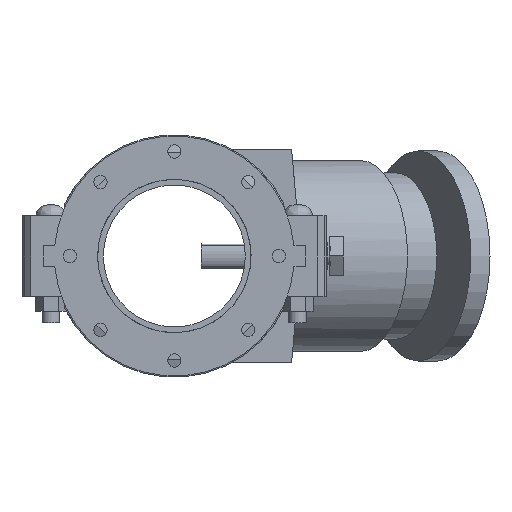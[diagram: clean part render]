
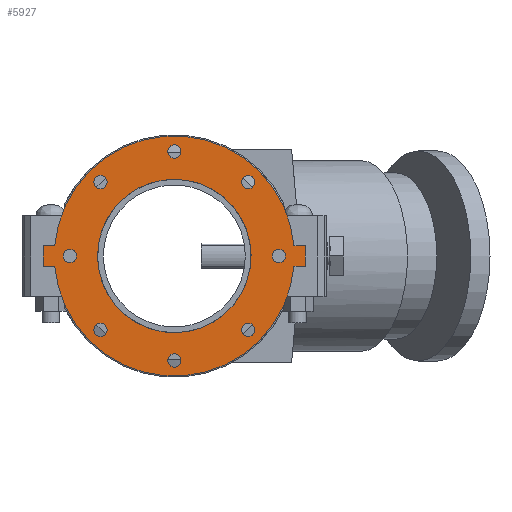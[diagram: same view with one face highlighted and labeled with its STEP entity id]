
A CAD part, front view. The second image highlights one B-rep face of the part: STEP entity #5927.
In plain terms, the highlighted planar face has unit normal (0, -1, 0) as drawn and (0, 0, 1) by its records, which use the part's own axes.
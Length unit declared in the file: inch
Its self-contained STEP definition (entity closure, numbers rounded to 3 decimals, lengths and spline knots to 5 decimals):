
#155=FACE_BOUND('',#786,.T.);
#156=FACE_BOUND('',#787,.T.);
#157=FACE_BOUND('',#788,.T.);
#158=FACE_BOUND('',#789,.T.);
#159=FACE_BOUND('',#790,.T.);
#160=FACE_BOUND('',#791,.T.);
#161=FACE_BOUND('',#792,.T.);
#162=FACE_BOUND('',#793,.T.);
#163=FACE_BOUND('',#794,.T.);
#236=PLANE('',#6491);
#446=FACE_OUTER_BOUND('',#785,.T.);
#785=EDGE_LOOP('',(#3885,#3886,#3887,#3888,#3889,#3890,#3891,#3892));
#786=EDGE_LOOP('',(#3893));
#787=EDGE_LOOP('',(#3894));
#788=EDGE_LOOP('',(#3895));
#789=EDGE_LOOP('',(#3896));
#790=EDGE_LOOP('',(#3897));
#791=EDGE_LOOP('',(#3898));
#792=EDGE_LOOP('',(#3899));
#793=EDGE_LOOP('',(#3900));
#794=EDGE_LOOP('',(#3901,#3902));
#1191=LINE('',#9108,#1627);
#1192=LINE('',#9111,#1628);
#1195=LINE('',#9116,#1631);
#1196=LINE('',#9119,#1632);
#1198=LINE('',#9122,#1634);
#1199=LINE('',#9124,#1635);
#1627=VECTOR('',#7256,0.3937);
#1628=VECTOR('',#7259,0.3937);
#1631=VECTOR('',#7264,0.3937);
#1632=VECTOR('',#7267,0.3937);
#1634=VECTOR('',#7271,0.3937);
#1635=VECTOR('',#7274,0.3937);
#2043=CIRCLE('',#6450,0.375);
#2045=CIRCLE('',#6453,0.375);
#2047=CIRCLE('',#6456,0.375);
#2049=CIRCLE('',#6459,0.375);
#2051=CIRCLE('',#6462,0.375);
#2053=CIRCLE('',#6465,0.375);
#2055=CIRCLE('',#6468,0.375);
#2057=CIRCLE('',#6471,0.375);
#2063=CIRCLE('',#6479,6.75);
#2064=CIRCLE('',#6481,4.3125);
#2065=CIRCLE('',#6482,4.3125);
#2066=CIRCLE('',#6484,6.75);
#2392=VERTEX_POINT('',#9019);
#2394=VERTEX_POINT('',#9025);
#2396=VERTEX_POINT('',#9031);
#2398=VERTEX_POINT('',#9037);
#2400=VERTEX_POINT('',#9043);
#2402=VERTEX_POINT('',#9049);
#2404=VERTEX_POINT('',#9055);
#2406=VERTEX_POINT('',#9061);
#2418=VERTEX_POINT('',#9088);
#2419=VERTEX_POINT('',#9090);
#2420=VERTEX_POINT('',#9094);
#2421=VERTEX_POINT('',#9096);
#2422=VERTEX_POINT('',#9100);
#2423=VERTEX_POINT('',#9102);
#2424=VERTEX_POINT('',#9106);
#2425=VERTEX_POINT('',#9110);
#2426=VERTEX_POINT('',#9114);
#2427=VERTEX_POINT('',#9118);
#2965=EDGE_CURVE('',#2392,#2392,#2043,.T.);
#2968=EDGE_CURVE('',#2394,#2394,#2045,.T.);
#2971=EDGE_CURVE('',#2396,#2396,#2047,.T.);
#2974=EDGE_CURVE('',#2398,#2398,#2049,.T.);
#2977=EDGE_CURVE('',#2400,#2400,#2051,.T.);
#2980=EDGE_CURVE('',#2402,#2402,#2053,.T.);
#2983=EDGE_CURVE('',#2404,#2404,#2055,.T.);
#2986=EDGE_CURVE('',#2406,#2406,#2057,.T.);
#3001=EDGE_CURVE('',#2418,#2419,#2063,.T.);
#3003=EDGE_CURVE('',#2421,#2420,#2064,.T.);
#3004=EDGE_CURVE('',#2420,#2421,#2065,.T.);
#3006=EDGE_CURVE('',#2423,#2422,#2066,.T.);
#3009=EDGE_CURVE('',#2419,#2424,#1191,.T.);
#3010=EDGE_CURVE('',#2425,#2423,#1192,.T.);
#3013=EDGE_CURVE('',#2422,#2426,#1195,.T.);
#3014=EDGE_CURVE('',#2427,#2418,#1196,.T.);
#3016=EDGE_CURVE('',#2426,#2427,#1198,.T.);
#3017=EDGE_CURVE('',#2424,#2425,#1199,.T.);
#3885=ORIENTED_EDGE('',*,*,#3013,.T.);
#3886=ORIENTED_EDGE('',*,*,#3016,.T.);
#3887=ORIENTED_EDGE('',*,*,#3014,.T.);
#3888=ORIENTED_EDGE('',*,*,#3001,.T.);
#3889=ORIENTED_EDGE('',*,*,#3009,.T.);
#3890=ORIENTED_EDGE('',*,*,#3017,.T.);
#3891=ORIENTED_EDGE('',*,*,#3010,.T.);
#3892=ORIENTED_EDGE('',*,*,#3006,.T.);
#3893=ORIENTED_EDGE('',*,*,#2965,.T.);
#3894=ORIENTED_EDGE('',*,*,#2968,.T.);
#3895=ORIENTED_EDGE('',*,*,#2971,.T.);
#3896=ORIENTED_EDGE('',*,*,#2974,.T.);
#3897=ORIENTED_EDGE('',*,*,#2977,.T.);
#3898=ORIENTED_EDGE('',*,*,#2980,.T.);
#3899=ORIENTED_EDGE('',*,*,#2983,.T.);
#3900=ORIENTED_EDGE('',*,*,#2986,.T.);
#3901=ORIENTED_EDGE('',*,*,#3003,.T.);
#3902=ORIENTED_EDGE('',*,*,#3004,.T.);
#5927=ADVANCED_FACE('',(#446,#155,#156,#157,#158,#159,#160,#161,#162,#163),
#236,.T.);
#6450=AXIS2_PLACEMENT_3D('',#9020,#7164,#7165);
#6453=AXIS2_PLACEMENT_3D('',#9026,#7171,#7172);
#6456=AXIS2_PLACEMENT_3D('',#9032,#7178,#7179);
#6459=AXIS2_PLACEMENT_3D('',#9038,#7185,#7186);
#6462=AXIS2_PLACEMENT_3D('',#9044,#7192,#7193);
#6465=AXIS2_PLACEMENT_3D('',#9050,#7199,#7200);
#6468=AXIS2_PLACEMENT_3D('',#9056,#7206,#7207);
#6471=AXIS2_PLACEMENT_3D('',#9062,#7213,#7214);
#6479=AXIS2_PLACEMENT_3D('',#9092,#7238,#7239);
#6481=AXIS2_PLACEMENT_3D('',#9097,#7243,#7244);
#6482=AXIS2_PLACEMENT_3D('',#9098,#7245,#7246);
#6484=AXIS2_PLACEMENT_3D('',#9103,#7250,#7251);
#6491=AXIS2_PLACEMENT_3D('',#9125,#7275,#7276);
#7164=DIRECTION('center_axis',(0.,0.,-1.));
#7165=DIRECTION('ref_axis',(-0.707,0.707,0.));
#7171=DIRECTION('center_axis',(0.,0.,-1.));
#7172=DIRECTION('ref_axis',(0.,1.,0.));
#7178=DIRECTION('center_axis',(0.,0.,-1.));
#7179=DIRECTION('ref_axis',(0.707,0.707,0.));
#7185=DIRECTION('center_axis',(0.,0.,-1.));
#7186=DIRECTION('ref_axis',(1.,0.,0.));
#7192=DIRECTION('center_axis',(0.,0.,-1.));
#7193=DIRECTION('ref_axis',(0.707,-0.707,0.));
#7199=DIRECTION('center_axis',(0.,0.,-1.));
#7200=DIRECTION('ref_axis',(0.,-1.,0.));
#7206=DIRECTION('center_axis',(0.,0.,-1.));
#7207=DIRECTION('ref_axis',(-0.707,-0.707,0.));
#7213=DIRECTION('center_axis',(0.,0.,-1.));
#7214=DIRECTION('ref_axis',(-1.,0.,0.));
#7238=DIRECTION('center_axis',(0.,0.,1.));
#7239=DIRECTION('ref_axis',(-1.,0.,0.));
#7243=DIRECTION('center_axis',(0.,0.,-1.));
#7244=DIRECTION('ref_axis',(-1.,0.,0.));
#7245=DIRECTION('center_axis',(0.,0.,-1.));
#7246=DIRECTION('ref_axis',(-1.,0.,0.));
#7250=DIRECTION('center_axis',(0.,0.,1.));
#7251=DIRECTION('ref_axis',(-1.,0.,0.));
#7256=DIRECTION('',(0.,1.,0.));
#7259=DIRECTION('',(0.,-1.,0.));
#7264=DIRECTION('',(0.,-1.,0.));
#7267=DIRECTION('',(0.,1.,0.));
#7271=DIRECTION('',(1.,0.,0.));
#7274=DIRECTION('',(-1.,0.,0.));
#7275=DIRECTION('center_axis',(0.,0.,1.));
#7276=DIRECTION('ref_axis',(1.,0.,0.));
#9019=CARTESIAN_POINT('',(-3.88909,3.88909,0.565));
#9020=CARTESIAN_POINT('Origin',(-4.15425,4.15425,0.565));
#9025=CARTESIAN_POINT('',(0.,5.5,0.565));
#9026=CARTESIAN_POINT('Origin',(0.,5.875,0.565));
#9031=CARTESIAN_POINT('',(3.88909,3.88909,0.565));
#9032=CARTESIAN_POINT('Origin',(4.15425,4.15425,0.565));
#9037=CARTESIAN_POINT('',(5.5,0.,0.565));
#9038=CARTESIAN_POINT('Origin',(5.875,0.,0.565));
#9043=CARTESIAN_POINT('',(3.88909,-3.88909,0.565));
#9044=CARTESIAN_POINT('Origin',(4.15425,-4.15425,0.565));
#9049=CARTESIAN_POINT('',(0.,-5.5,0.565));
#9050=CARTESIAN_POINT('Origin',(0.,-5.875,0.565));
#9055=CARTESIAN_POINT('',(-3.88909,-3.88909,0.565));
#9056=CARTESIAN_POINT('Origin',(-4.15425,-4.15425,0.565));
#9061=CARTESIAN_POINT('',(-5.5,0.,0.565));
#9062=CARTESIAN_POINT('Origin',(-5.875,0.,0.565));
#9088=CARTESIAN_POINT('',(0.565,-6.72631,0.565));
#9090=CARTESIAN_POINT('',(0.565,6.72631,0.565));
#9092=CARTESIAN_POINT('Origin',(0.,0.,0.565));
#9094=CARTESIAN_POINT('',(4.3125,0.,0.565));
#9096=CARTESIAN_POINT('',(0.565,4.27533,0.565));
#9097=CARTESIAN_POINT('Origin',(0.,0.,0.565));
#9098=CARTESIAN_POINT('Origin',(0.,0.,0.565));
#9100=CARTESIAN_POINT('',(-0.565,-6.72631,0.565));
#9102=CARTESIAN_POINT('',(-0.565,6.72631,0.565));
#9103=CARTESIAN_POINT('Origin',(0.,0.,0.565));
#9106=CARTESIAN_POINT('',(0.565,7.375,0.565));
#9108=CARTESIAN_POINT('',(0.565,7.375,0.565));
#9110=CARTESIAN_POINT('',(-0.565,7.375,0.565));
#9111=CARTESIAN_POINT('',(-0.565,-7.375,0.565));
#9114=CARTESIAN_POINT('',(-0.565,-7.375,0.565));
#9116=CARTESIAN_POINT('',(-0.565,-7.375,0.565));
#9118=CARTESIAN_POINT('',(0.565,-7.375,0.565));
#9119=CARTESIAN_POINT('',(0.565,7.375,0.565));
#9122=CARTESIAN_POINT('',(0.565,-7.375,0.565));
#9124=CARTESIAN_POINT('',(-0.565,7.375,0.565));
#9125=CARTESIAN_POINT('Origin',(0.,0.,0.565));
